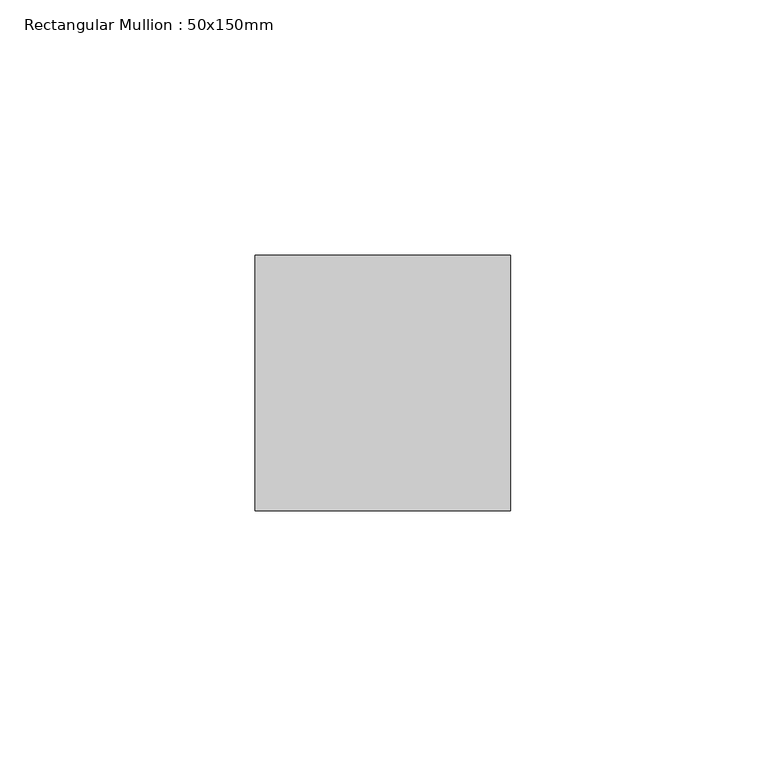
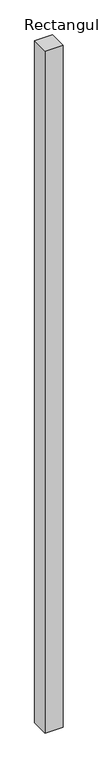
"""IFC4 building model written with IfcOpenShell, lengths in millimetres: member geometry, Rectangular Mullion : 50x150mm."""

from ifc_helpers import new_model, si_unit, frame, origin, place, context, project, spatial, polyline, outline, extrude, source, transform, mapped, element, save


def rectangular_mullion_50x150mm_521fa47b(model_context):
    return source(origin(), model_context, "Body", "SweptSolid", [
        extrude(outline(polyline([(0.0, 25.0), (0.0, -25.0), (-50.0, -25.0), (-50.0, 25.0), (0.0, 25.0)])), frame((0.0, 0.0, -2000.0), z_axis=(0.0, 0.0, 1.0), x_axis=(1.0, 0.0, 0.0)), (0.0, 0.0, 1.0), 2000.0),
    ])


if __name__ == "__main__":
    model = new_model("IFC4")
    model_context = context("Model", 3, world=origin())
    ifc_project = project(units=[si_unit("LENGTHUNIT", "METRE", prefix="MILLI")], contexts=[model_context])
    site = spatial("IfcSite", under=ifc_project)
    building = spatial("IfcBuilding", under=site)
    placement = place(None, origin())
    rectangular_mullion_50x150mm_shape = rectangular_mullion_50x150mm_521fa47b(model_context)
    element("IfcMember", 1, ObjectType="Rectangular Mullion : 50x150mm", at=placement, inside=building, context=model_context, shape_type="MappedRepresentation", body=[
        mapped(rectangular_mullion_50x150mm_shape, transform((0.0, 0.0, 0.0), x_axis=(1.0, 0.0, 0.0), y_axis=(0.0, 1.0, 0.0), z_axis=(0.0, 0.0, 1.0))),
    ])
    save(model, "model.ifc")
